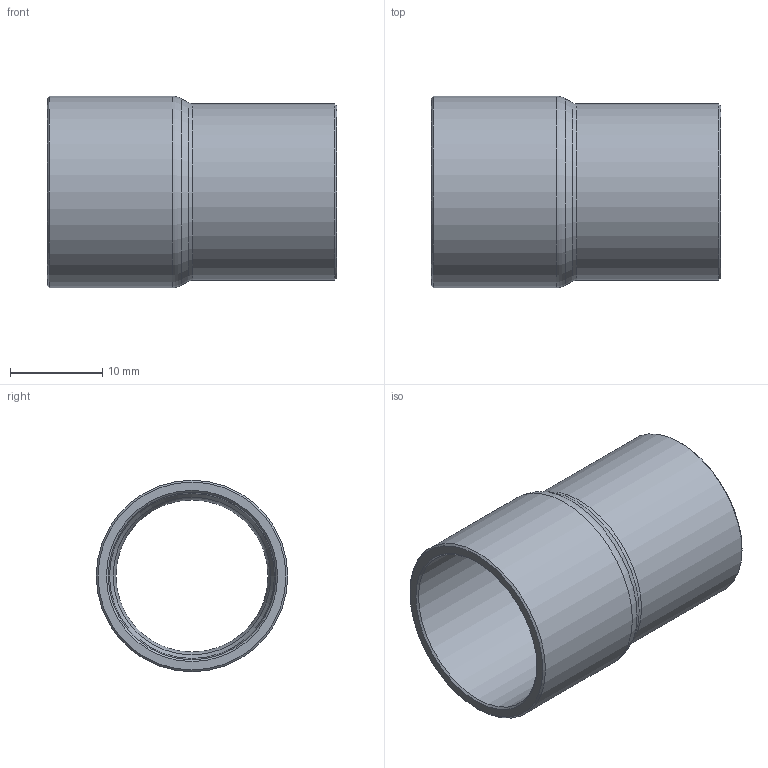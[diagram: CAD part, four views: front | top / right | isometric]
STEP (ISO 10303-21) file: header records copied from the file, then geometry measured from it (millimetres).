
FILE_DESCRIPTION((''),'2;1');
FILE_NAME('G:\SANHA-Ternat\Technik\Management\Bouwmaten + markeringen\z-maattekeningen 3D\29000s\29243IM3418_3d.stp','2017-08-07T11:39:41',('vdvijverd'),(''),'Autodesk Inventor 2009','Autodesk Inventor 2009','');
FILE_SCHEMA(('AUTOMOTIVE_DESIGN { 1 0 10303 214 1 1 1 1 }'));
Length unit declared in the file: millimetre
Products named in the file (1): 29243IM3418_3d
Bounding box: 31.3 x 20.72 x 20.72 mm (x, y, z)
Volume: 2378.2 mm3; surface area: 3789.8 mm2
Topology: 1 solids, 1 shells, 16 faces, 30 edges, 16 vertices
Faces by surface type: cone 6, cylinder 4, plane 2, torus 2, bspline 2
Full cylindrical faces by diameter (mm): 16.45 x1, 18.12 x1, 19.05 x1, 20.72 x1
Entity records: 434 total; most frequent: CARTESIAN_POINT 137, DIRECTION 62, ORIENTED_EDGE 32, EDGE_LOOP 32, AXIS2_PLACEMENT_3D 31, VERTEX_POINT 16, CIRCLE 16, EDGE_CURVE 16
